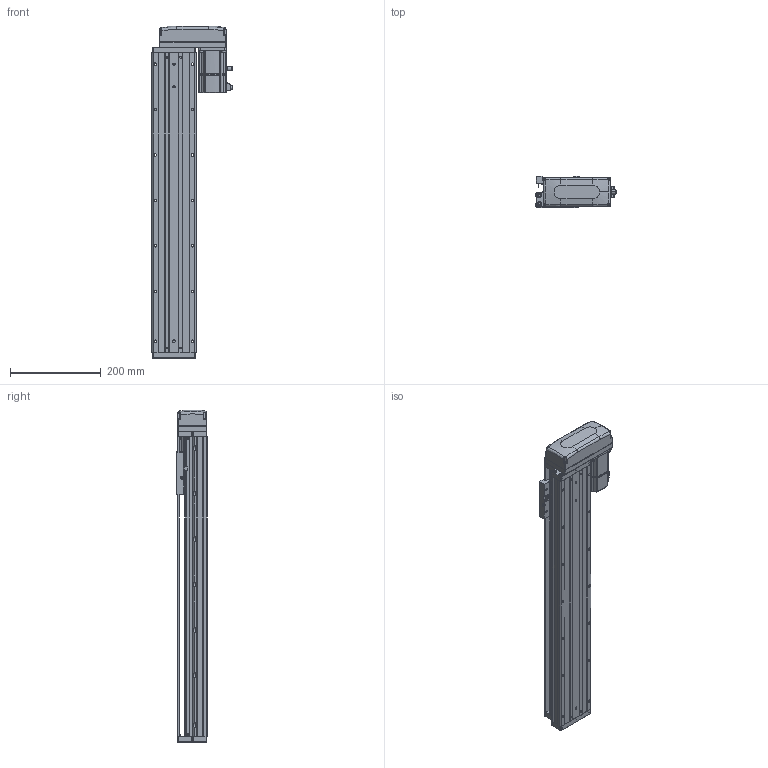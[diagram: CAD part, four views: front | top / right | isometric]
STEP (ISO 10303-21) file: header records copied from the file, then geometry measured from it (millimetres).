
FILE_DESCRIPTION (( 'STEP AP203' ), '1' );
FILE_NAME ('KTHA100-500-BL-M20-C4L.step', '2022-04-26T01:49:04', ( '微软用户' ), ( '微软中国' ), 'SwSTEP 2.0', 'SolidWorks 2020', '' );
FILE_SCHEMA (( 'CONFIG_CONTROL_DESIGN' ));
Length unit declared in the file: millimetre
Products named in the file (17): EE_SX911P_R; GBT 70.3-M3℅6; CTHA60-017; _X2_4E0983F1_X0_200W_1; KTHA100-001_660; CTHA60-021; CTHA86-015-1_CTHA86-015-2; KTHA100-500-BL-M20-C4L; KTHA100-002; GBT77-2000 M3×3; CTHA86-033; KTHA100-004; GBT 70.1-M3℅6; KTHA100-005; GBT70.1 M5℅16; GB¨uT 70.2-M3¡Á5_M3¡Á6; CTHA60-016
Assembly tree (57 placements, depth 2):
  KTHA100-500-BL-M20-C4L
    KTHA100-001_660
    KTHA100-002
    KTHA100-004
    KTHA100-005
    GB¨uT 70.2-M3¡Á5_M3¡Á6  x6
    EE_SX911P_R  x3
    CTHA60-017  x3
    CTHA60-021  x2
    GBT77-2000 M3×3  x6
    GBT 70.1-M3℅6  x10
    GBT70.1 M5℅16  x14
    CTHA60-016  x2
    GBT 70.3-M3℅6  x4
    _X2_4E0983F1_X0_200W_1
    CTHA86-015-1_CTHA86-015-2
    CTHA86-033
Bounding box: 177.7 x 68 x 731 mm (x, y, z)
Volume: 3337848.4 mm3; surface area: 547444.6 mm2
Topology: 60 solids, 60 shells, 2417 faces, 5777 edges, 3580 vertices
Faces by surface type: plane 1232, cylinder 671, cone 307, torus 116, bspline 75, sphere 16
Entity records: 41302 total; most frequent: CARTESIAN_POINT 8336, DIRECTION 6382, ORIENTED_EDGE 6166, EDGE_CURVE 3083, AXIS2_PLACEMENT_3D 2234, VERTEX_POINT 1940, LINE 1914, VECTOR 1914
